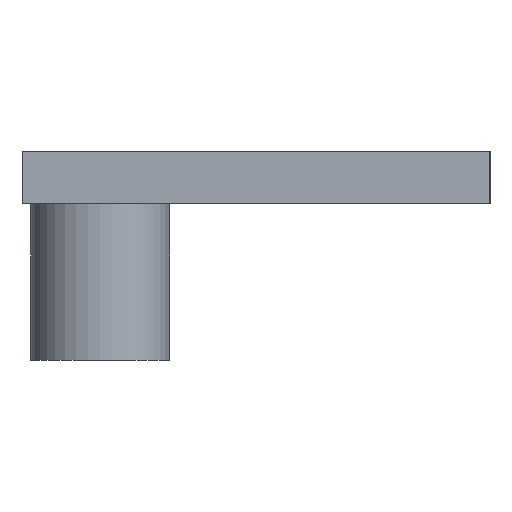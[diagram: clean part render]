
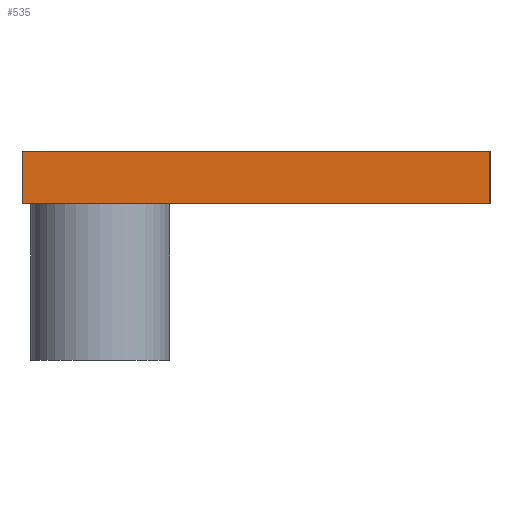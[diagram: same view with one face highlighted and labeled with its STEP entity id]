
A CAD part, left-side view. The second image highlights one B-rep face of the part: STEP entity #535.
In plain terms, the highlighted planar face has unit normal (-1, 0, 0).
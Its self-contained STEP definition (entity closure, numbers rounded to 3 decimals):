
#32 = PLANE('',#33);
#33 = AXIS2_PLACEMENT_3D('',#34,#35,#36);
#34 = CARTESIAN_POINT('',(-47.,-47.,25.));
#35 = DIRECTION('',(0.,0.,1.));
#36 = DIRECTION('',(1.,0.,-0.));
#114 = VERTEX_POINT('',#115);
#115 = CARTESIAN_POINT('',(-24.,46.,25.));
#128 = PLANE('',#129);
#129 = AXIS2_PLACEMENT_3D('',#130,#131,#132);
#130 = CARTESIAN_POINT('',(-24.,46.,0.));
#131 = DIRECTION('',(0.,1.,0.));
#132 = DIRECTION('',(0.,0.,1.));
#139 = EDGE_CURVE('',#140,#114,#142,.T.);
#140 = VERTEX_POINT('',#141);
#141 = CARTESIAN_POINT('',(-24.,19.05,25.));
#142 = SURFACE_CURVE('',#143,(#147,#153),.PCURVE_S1.);
#143 = LINE('',#144,#145);
#144 = CARTESIAN_POINT('',(-24.,-13.975,25.));
#145 = VECTOR('',#146,1.);
#146 = DIRECTION('',(0.,1.,0.));
#147 = PCURVE('',#32,#148);
#148 = DEFINITIONAL_REPRESENTATION('',(#149),#152);
#149 = B_SPLINE_CURVE_WITH_KNOTS('',1,(#150,#151),.UNSPECIFIED.,.F.,.F.,
  (2,2),(33.025,59.975),.PIECEWISE_BEZIER_KNOTS.);
#150 = CARTESIAN_POINT('',(23.,66.05));
#151 = CARTESIAN_POINT('',(23.,93.));
#152 = ( GEOMETRIC_REPRESENTATION_CONTEXT(2) 
PARAMETRIC_REPRESENTATION_CONTEXT() REPRESENTATION_CONTEXT('2D SPACE',''
  ) );
#153 = PCURVE('',#154,#159);
#154 = PLANE('',#155);
#155 = AXIS2_PLACEMENT_3D('',#156,#157,#158);
#156 = CARTESIAN_POINT('',(-24.,19.05,0.));
#157 = DIRECTION('',(1.,0.,0.));
#158 = DIRECTION('',(0.,0.,1.));
#159 = DEFINITIONAL_REPRESENTATION('',(#160),#163);
#160 = B_SPLINE_CURVE_WITH_KNOTS('',1,(#161,#162),.UNSPECIFIED.,.F.,.F.,
  (2,2),(33.025,59.975),.PIECEWISE_BEZIER_KNOTS.);
#161 = CARTESIAN_POINT('',(25.,0.));
#162 = CARTESIAN_POINT('',(25.,-26.95));
#163 = ( GEOMETRIC_REPRESENTATION_CONTEXT(2) 
PARAMETRIC_REPRESENTATION_CONTEXT() REPRESENTATION_CONTEXT('2D SPACE',''
  ) );
#178 = PLANE('',#179);
#179 = AXIS2_PLACEMENT_3D('',#180,#181,#182);
#180 = CARTESIAN_POINT('',(-24.,19.05,0.));
#181 = DIRECTION('',(0.,1.,0.));
#182 = DIRECTION('',(0.,0.,1.));
#458 = PLANE('',#459);
#459 = AXIS2_PLACEMENT_3D('',#460,#461,#462);
#460 = CARTESIAN_POINT('',(-47.,-47.,22.));
#461 = DIRECTION('',(0.,0.,1.));
#462 = DIRECTION('',(1.,0.,-0.));
#494 = VERTEX_POINT('',#495);
#495 = CARTESIAN_POINT('',(-24.,19.05,22.));
#514 = EDGE_CURVE('',#494,#140,#515,.T.);
#515 = SURFACE_CURVE('',#516,(#520,#527),.PCURVE_S1.);
#516 = LINE('',#517,#518);
#517 = CARTESIAN_POINT('',(-24.,19.05,0.));
#518 = VECTOR('',#519,1.);
#519 = DIRECTION('',(0.,0.,1.));
#520 = PCURVE('',#178,#521);
#521 = DEFINITIONAL_REPRESENTATION('',(#522),#526);
#522 = LINE('',#523,#524);
#523 = CARTESIAN_POINT('',(0.,0.));
#524 = VECTOR('',#525,1.);
#525 = DIRECTION('',(1.,0.));
#526 = ( GEOMETRIC_REPRESENTATION_CONTEXT(2) 
PARAMETRIC_REPRESENTATION_CONTEXT() REPRESENTATION_CONTEXT('2D SPACE',''
  ) );
#527 = PCURVE('',#154,#528);
#528 = DEFINITIONAL_REPRESENTATION('',(#529),#533);
#529 = LINE('',#530,#531);
#530 = CARTESIAN_POINT('',(0.,0.));
#531 = VECTOR('',#532,1.);
#532 = DIRECTION('',(1.,0.));
#533 = ( GEOMETRIC_REPRESENTATION_CONTEXT(2) 
PARAMETRIC_REPRESENTATION_CONTEXT() REPRESENTATION_CONTEXT('2D SPACE',''
  ) );
#535 = ADVANCED_FACE('',(#536),#154,.F.);
#536 = FACE_BOUND('',#537,.F.);
#537 = EDGE_LOOP('',(#538,#539,#560,#581));
#538 = ORIENTED_EDGE('',*,*,#514,.F.);
#539 = ORIENTED_EDGE('',*,*,#540,.T.);
#540 = EDGE_CURVE('',#494,#541,#543,.T.);
#541 = VERTEX_POINT('',#542);
#542 = CARTESIAN_POINT('',(-24.,46.,22.));
#543 = SURFACE_CURVE('',#544,(#548,#554),.PCURVE_S1.);
#544 = LINE('',#545,#546);
#545 = CARTESIAN_POINT('',(-24.,-13.975,22.));
#546 = VECTOR('',#547,1.);
#547 = DIRECTION('',(0.,1.,0.));
#548 = PCURVE('',#154,#549);
#549 = DEFINITIONAL_REPRESENTATION('',(#550),#553);
#550 = B_SPLINE_CURVE_WITH_KNOTS('',1,(#551,#552),.UNSPECIFIED.,.F.,.F.,
  (2,2),(33.025,59.975),.PIECEWISE_BEZIER_KNOTS.);
#551 = CARTESIAN_POINT('',(22.,0.));
#552 = CARTESIAN_POINT('',(22.,-26.95));
#553 = ( GEOMETRIC_REPRESENTATION_CONTEXT(2) 
PARAMETRIC_REPRESENTATION_CONTEXT() REPRESENTATION_CONTEXT('2D SPACE',''
  ) );
#554 = PCURVE('',#458,#555);
#555 = DEFINITIONAL_REPRESENTATION('',(#556),#559);
#556 = B_SPLINE_CURVE_WITH_KNOTS('',1,(#557,#558),.UNSPECIFIED.,.F.,.F.,
  (2,2),(33.025,59.975),.PIECEWISE_BEZIER_KNOTS.);
#557 = CARTESIAN_POINT('',(23.,66.05));
#558 = CARTESIAN_POINT('',(23.,93.));
#559 = ( GEOMETRIC_REPRESENTATION_CONTEXT(2) 
PARAMETRIC_REPRESENTATION_CONTEXT() REPRESENTATION_CONTEXT('2D SPACE',''
  ) );
#560 = ORIENTED_EDGE('',*,*,#561,.T.);
#561 = EDGE_CURVE('',#541,#114,#562,.T.);
#562 = SURFACE_CURVE('',#563,(#567,#574),.PCURVE_S1.);
#563 = LINE('',#564,#565);
#564 = CARTESIAN_POINT('',(-24.,46.,0.));
#565 = VECTOR('',#566,1.);
#566 = DIRECTION('',(0.,0.,1.));
#567 = PCURVE('',#154,#568);
#568 = DEFINITIONAL_REPRESENTATION('',(#569),#573);
#569 = LINE('',#570,#571);
#570 = CARTESIAN_POINT('',(0.,-26.95));
#571 = VECTOR('',#572,1.);
#572 = DIRECTION('',(1.,0.));
#573 = ( GEOMETRIC_REPRESENTATION_CONTEXT(2) 
PARAMETRIC_REPRESENTATION_CONTEXT() REPRESENTATION_CONTEXT('2D SPACE',''
  ) );
#574 = PCURVE('',#128,#575);
#575 = DEFINITIONAL_REPRESENTATION('',(#576),#580);
#576 = LINE('',#577,#578);
#577 = CARTESIAN_POINT('',(0.,0.));
#578 = VECTOR('',#579,1.);
#579 = DIRECTION('',(1.,0.));
#580 = ( GEOMETRIC_REPRESENTATION_CONTEXT(2) 
PARAMETRIC_REPRESENTATION_CONTEXT() REPRESENTATION_CONTEXT('2D SPACE',''
  ) );
#581 = ORIENTED_EDGE('',*,*,#139,.F.);
